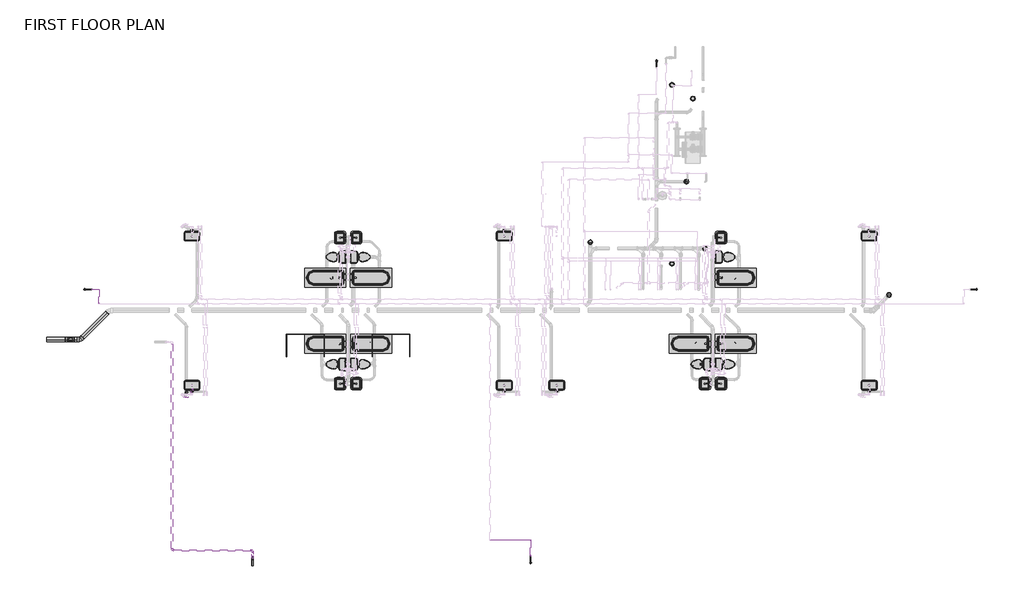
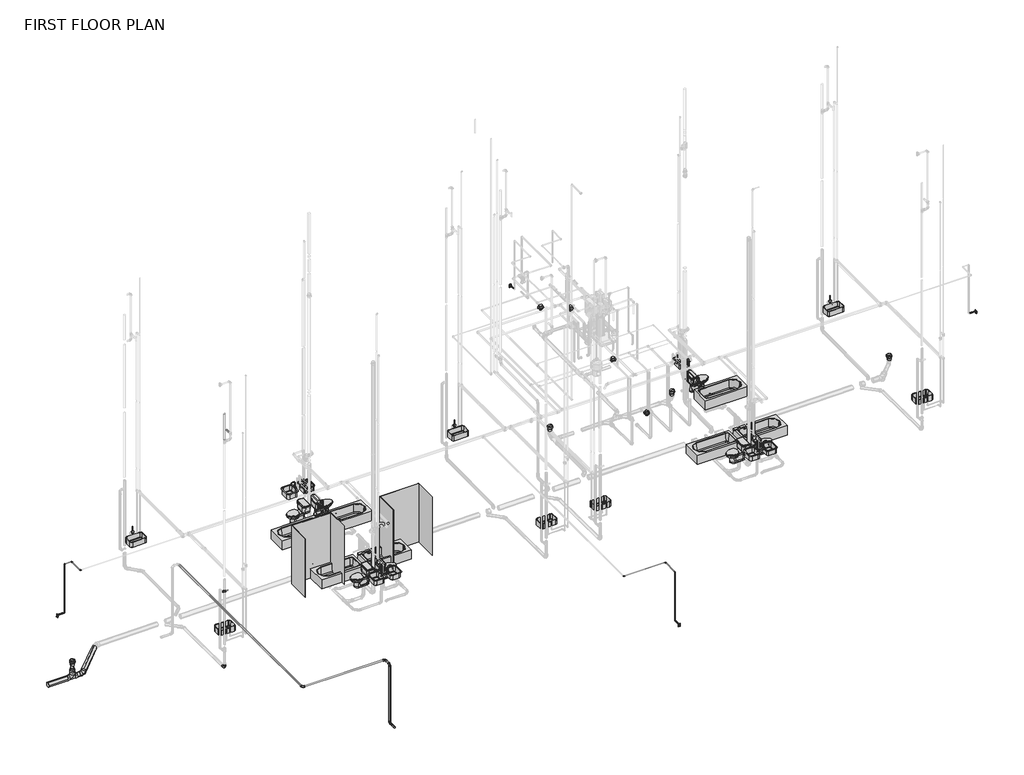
# One storey, part 1 of 29: 43 flow terminals, 20 pipe segments, 17 pipe fittings.
"""IFC4 building model written with IfcOpenShell, lengths in millimetres."""

from ifc_helpers import new_model, si_unit, point, frame, frame_2d, origin, place, context, project, spatial, circle_curve, trimmed, segment, composite_curve, outline, extrude, transform, mapped, element, save
from components import flow_terminal_9ac9a333, floor_cleanout_zurn_zn1400_ic_d83c3ab9, flow_terminal_99821c54, lsy_sink_1a_065a4558, lsy_sink_1a_83b20bf5, flow_terminal_62a433f7, flow_terminal_4d0de4d3, toilet_domestic_3d_toilet_domestic_3d_f7549cf7, toilet_domestic_3d_toilet_domestic_3d_183bbd19, toilet_domestic_3d_toilet_domestic_3d_a08e12bc, toilet_domestic_3d_toilet_domestic_3d_5530cc89, tub_rectangular_3d_tub_rectangular_3d_d1c8eb0f, tub_rectangular_3d_tub_rectangular_3d_b9fe3472, ada_transfer_shower_f_36x60_f5ea6e93, ada_transfer_shower_f_36x60_ab0e04bc, bend_pvc_sch_40_dwv_standard_ddf7f1b2, bend_pvc_sch_40_dwv_standard_9a61ab34, bend_pvc_sch_40_dwv_standard_1eaeee76, bend_pvc_sch_40_dwv_standard_ce2fe309, pipe_elbow_copper_k_feaaf02c, reducer_pvc_sch_40_dwv_standard_1f0c87c7, tee_sanitary_pvc_sch_40_dwv_standard_83125549

model = new_model("IFC4")

# Units and contexts
model_context = context("Model", 3, world=origin())
ifc_project = project(units=[si_unit("LENGTHUNIT", "METRE", prefix="MILLI")], contexts=[model_context])

# Site, building, storey
site = spatial("IfcSite", under=ifc_project)
building = spatial("IfcBuilding", under=site)
storey = spatial("IfcBuildingStorey", under=building, Name="FIRST FLOOR PLAN", Elevation=0.0)

# Flow terminals
placement = place(None, origin())
flow_terminal_shape = flow_terminal_9ac9a333(model_context)
element("IfcFlowTerminal", 1, ObjectType="Floor Drain - Round : 5\" Strainer - 3\" Drain", at=placement, inside=storey, context=model_context, shape_type="MappedRepresentation", body=[
    mapped(flow_terminal_shape, transform((15278.1760116, 7411.2276973, 0.0), x_axis=(1.0, 0.0, 0.0), y_axis=(0.0, 1.0, 0.0), z_axis=(0.0, 0.0, 1.0))),
])
element("IfcFlowTerminal", 2, ObjectType="Floor Drain - Round : 5\" Strainer - 3\" Drain", at=placement, inside=storey, context=model_context, shape_type="MappedRepresentation", body=[
    mapped(flow_terminal_shape, transform((15278.5254982, 14675.2781784, 0.0), x_axis=(1.0, 0.0, 0.0), y_axis=(0.0, 1.0, 0.0), z_axis=(0.0, 0.0, 1.0))),
])
element("IfcFlowTerminal", 3, ObjectType="Floor Drain - Round : 5\" Strainer - 3\" Drain", at=placement, inside=storey, context=model_context, shape_type="MappedRepresentation", body=[
    mapped(flow_terminal_shape, transform((16130.2759733, 14121.8256973, 0.0), x_axis=(1.0, 0.0, 0.0), y_axis=(0.0, 1.0, 0.0), z_axis=(0.0, 0.0, 1.0))),
])
element("IfcFlowTerminal", 4, ObjectType="Floor Drain - Round : 5\" Strainer - 3\" Drain", at=placement, inside=storey, context=model_context, shape_type="MappedRepresentation", body=[
    mapped(flow_terminal_shape, transform((15863.1377601, 10743.5981228, 0.0), x_axis=(1.0, 0.0, 0.0), y_axis=(0.0, 1.0, 0.0), z_axis=(0.0, 0.0, 1.0))),
])
floor_cleanout_zurn_zn1400_ic_shape = floor_cleanout_zurn_zn1400_ic_d83c3ab9(model_context)
element("IfcFlowTerminal", 5, ObjectType="Floor_Cleanout-Zurn-ZN1400-IC : 7-1/4\" x 9-1/8\" x D4\"", at=placement, inside=storey, context=model_context, shape_type="MappedRepresentation", body=[
    mapped(floor_cleanout_zurn_zn1400_ic_shape, transform((24102.5133659, 6142.3914719, -3.4395833), x_axis=(1.0, 0.0, 0.0), y_axis=(0.0, 1.0, 0.0), z_axis=(0.0, 0.0, 1.0))),
])
element("IfcFlowTerminal", 6, ObjectType="Floor_Cleanout-Zurn-ZN1400-IC : 7-1/4\" x 9-1/8\" x D4\"", at=placement, inside=storey, context=model_context, shape_type="MappedRepresentation", body=[
    mapped(floor_cleanout_zurn_zn1400_ic_shape, transform((16620.4563796, 8027.5860232, -3.4395833), x_axis=(1.0, 0.0, 0.0), y_axis=(0.0, 1.0, 0.0), z_axis=(0.0, 0.0, 1.0))),
])
element("IfcFlowTerminal", 7, ObjectType="Floor_Cleanout-Zurn-ZN1400-IC : 7-1/4\" x 9-1/8\" x D4\"", at=placement, inside=storey, context=model_context, shape_type="MappedRepresentation", body=[
    mapped(floor_cleanout_zurn_zn1400_ic_shape, transform((11956.8124374, 8283.2137605, -3.4395833), x_axis=(1.0, 0.0, 0.0), y_axis=(0.0, 1.0, 0.0), z_axis=(0.0, 0.0, 1.0))),
])
element("IfcFlowTerminal", 8, ObjectType="Floor_Cleanout-Zurn-ZN1400-IC : 7-1/4\" x 9-1/8\" x D4\"", at=placement, inside=storey, context=model_context, shape_type="MappedRepresentation", body=[
    mapped(floor_cleanout_zurn_zn1400_ic_shape, transform((-9172.9834122, 4328.6435599, -3.4395833), x_axis=(1.0, 0.0, 0.0), y_axis=(0.0, 1.0, 0.0), z_axis=(0.0, 0.0, 1.0))),
])
flow_terminal_2_shape = flow_terminal_99821c54(model_context)
element("IfcFlowTerminal", 9, ObjectType="GES WALL HYDRANT : 6\" Wall Thickness", at=placement, inside=storey, context=model_context, shape_type="MappedRepresentation", body=[
    mapped(flow_terminal_2_shape, transform((27658.0237309, 6363.4137881, 438.0), x_axis=(0.0, 1.0, 0.0), y_axis=(0.0, 0.0, 1.0), z_axis=(1.0, 0.0, 0.0))),
])
element("IfcFlowTerminal", 10, ObjectType="GES WALL HYDRANT : 6\" Wall Thickness", at=placement, inside=storey, context=model_context, shape_type="MappedRepresentation", body=[
    mapped(flow_terminal_2_shape, transform((14653.1084875, 15654.2137881, 438.0), x_axis=(-1.0, 0.0, 0.0), y_axis=(0.0, 0.0, 1.0), z_axis=(0.0, 1.0, 0.0))),
])
element("IfcFlowTerminal", 11, ObjectType="GES WALL HYDRANT : 6\" Wall Thickness", at=placement, inside=storey, context=model_context, shape_type="MappedRepresentation", body=[
    mapped(flow_terminal_2_shape, transform((9530.5084875, -4751.5862119, 438.0), x_axis=(1.0, 0.0, 0.0), y_axis=(0.0, 0.0, 1.0), z_axis=(0.0, -1.0, 0.0))),
])
element("IfcFlowTerminal", 12, ObjectType="GES WALL HYDRANT : 6\" Wall Thickness", at=placement, inside=storey, context=model_context, shape_type="MappedRepresentation", body=[
    mapped(flow_terminal_2_shape, transform((-8587.806756, 6363.4137881, 438.0), x_axis=(0.0, -1.0, 0.0), y_axis=(0.0, 0.0, 1.0), z_axis=(-1.0, 0.0, 0.0))),
])
lsy_sink_1a_shape = lsy_sink_1a_065a4558(model_context)
element("IfcFlowTerminal", 13, ObjectType="LSY_Sink_1A : 25\"W x 15\"D", at=placement, inside=storey, context=model_context, shape_type="MappedRepresentation", body=[
    mapped(lsy_sink_1a_shape, transform((-4245.7932531, 8626.5933869, -38.1), x_axis=(1.0, 0.0, 0.0), y_axis=(0.0, 1.0, 0.0), z_axis=(0.0, 0.0, 1.0))),
])
element("IfcFlowTerminal", 14, ObjectType="LSY_Sink_1A : 25\"W x 15\"D", at=placement, inside=storey, context=model_context, shape_type="MappedRepresentation", body=[
    mapped(lsy_sink_1a_shape, transform((8482.410228, 2373.0341892, -38.1), x_axis=(-1.0, 0.0, 0.0), y_axis=(0.0, -1.0, 0.0), z_axis=(0.0, 0.0, 1.0))),
])
element("IfcFlowTerminal", 15, ObjectType="LSY_Sink_1A : 25\"W x 15\"D", at=placement, inside=storey, context=model_context, shape_type="MappedRepresentation", body=[
    mapped(lsy_sink_1a_shape, transform((23306.010228, 2373.0341892, -38.1), x_axis=(-1.0, 0.0, 0.0), y_axis=(0.0, -1.0, 0.0), z_axis=(0.0, 0.0, 1.0))),
])
lsy_sink_1a_2_shape = lsy_sink_1a_83b20bf5(model_context)
element("IfcFlowTerminal", 16, ObjectType="LSY_Sink_1A : 25\"W x 15\"D", at=placement, inside=storey, context=model_context, shape_type="MappedRepresentation", body=[
    mapped(lsy_sink_1a_2_shape, transform((8482.410228, 8626.5933869, -38.1), x_axis=(-1.0, 0.0, 0.0), y_axis=(0.0, -1.0, 0.0), z_axis=(0.0, 0.0, 1.0))),
])
element("IfcFlowTerminal", 17, ObjectType="LSY_Sink_1A : 25\"W x 15\"D", at=placement, inside=storey, context=model_context, shape_type="MappedRepresentation", body=[
    mapped(lsy_sink_1a_2_shape, transform((23306.010228, 8626.5933869, -38.1), x_axis=(-1.0, 0.0, 0.0), y_axis=(0.0, -1.0, 0.0), z_axis=(0.0, 0.0, 1.0))),
])
element("IfcFlowTerminal", 18, ObjectType="LSY_Sink_1A : 25\"W x 15\"D", at=placement, inside=storey, context=model_context, shape_type="MappedRepresentation", body=[
    mapped(lsy_sink_1a_2_shape, transform((-4245.7932531, 2373.0341892, -38.1), x_axis=(1.0, 0.0, 0.0), y_axis=(0.0, 1.0, 0.0), z_axis=(0.0, 0.0, 1.0))),
])
element("IfcFlowTerminal", 19, ObjectType="LSY_Sink_1A : 25\"W x 15\"D", at=placement, inside=storey, context=model_context, shape_type="MappedRepresentation", body=[
    mapped(lsy_sink_1a_2_shape, transform((10579.4067469, 2373.0341892, -38.1), x_axis=(1.0, 0.0, 0.0), y_axis=(0.0, 1.0, 0.0), z_axis=(0.0, 0.0, 1.0))),
])
element("IfcFlowTerminal", 20, ObjectType="LSY_Sink_1A : 25\"W x 15\"D", at=placement, inside=storey, context=model_context, shape_type="MappedRepresentation", body=[
    mapped(lsy_sink_1a_2_shape, transform((-4245.7932531, 2373.0341892, -38.1), x_axis=(1.0, 0.0, 0.0), y_axis=(0.0, 1.0, 0.0), z_axis=(0.0, 0.0, 1.0))),
])
flow_terminal_3_shape = flow_terminal_62a433f7(model_context)
element("IfcFlowTerminal", 21, ObjectType="Sink Vanity-Square : 20\" x 18\"", at=placement, inside=storey, context=model_context, shape_type="MappedRepresentation", body=[
    mapped(flow_terminal_3_shape, transform((1841.1630863, 8482.7030286, 0.0), x_axis=(0.0, -1.0, 0.0), y_axis=(1.0, 0.0, 0.0), z_axis=(0.0, 0.0, 1.0))),
])
element("IfcFlowTerminal", 22, ObjectType="Sink Vanity-Square : 20\" x 18\"", at=placement, inside=storey, context=model_context, shape_type="MappedRepresentation", body=[
    mapped(flow_terminal_3_shape, transform((2395.4538886, 2516.9245475, 0.0), x_axis=(0.0, 1.0, 0.0), y_axis=(-1.0, 0.0, 0.0), z_axis=(0.0, 0.0, 1.0))),
])
element("IfcFlowTerminal", 23, ObjectType="Sink Vanity-Square : 20\" x 18\"", at=placement, inside=storey, context=model_context, shape_type="MappedRepresentation", body=[
    mapped(flow_terminal_3_shape, transform((17219.0538886, 2516.9245475, 0.0), x_axis=(0.0, 1.0, 0.0), y_axis=(-1.0, 0.0, 0.0), z_axis=(0.0, 0.0, 1.0))),
])
flow_terminal_4_shape = flow_terminal_4d0de4d3(model_context)
element("IfcFlowTerminal", 24, ObjectType="Sink Vanity-Square : 20\" x 18\"", at=placement, inside=storey, context=model_context, shape_type="MappedRepresentation", body=[
    mapped(flow_terminal_4_shape, transform((2395.4538886, 8482.7030286, 0.0), x_axis=(0.0, -1.0, 0.0), y_axis=(1.0, 0.0, 0.0), z_axis=(0.0, 0.0, 1.0))),
])
element("IfcFlowTerminal", 25, ObjectType="Sink Vanity-Square : 20\" x 18\"", at=placement, inside=storey, context=model_context, shape_type="MappedRepresentation", body=[
    mapped(flow_terminal_4_shape, transform((17219.0538886, 8482.7030286, 0.0), x_axis=(0.0, -1.0, 0.0), y_axis=(1.0, 0.0, 0.0), z_axis=(0.0, 0.0, 1.0))),
])
element("IfcFlowTerminal", 26, ObjectType="Sink Vanity-Square : 20\" x 18\"", at=placement, inside=storey, context=model_context, shape_type="MappedRepresentation", body=[
    mapped(flow_terminal_4_shape, transform((1841.1630863, 2516.9245475, 0.0), x_axis=(0.0, 1.0, 0.0), y_axis=(-1.0, 0.0, 0.0), z_axis=(0.0, 0.0, 1.0))),
])
element("IfcFlowTerminal", 27, ObjectType="Sink Vanity-Square : 20\" x 18\"", at=placement, inside=storey, context=model_context, shape_type="MappedRepresentation", body=[
    mapped(flow_terminal_4_shape, transform((16666.3630863, 2516.9245475, 0.0), x_axis=(0.0, 1.0, 0.0), y_axis=(-1.0, 0.0, 0.0), z_axis=(0.0, 0.0, 1.0))),
])
toilet_domestic_3d_toilet_domestic_3d_shape = toilet_domestic_3d_toilet_domestic_3d_f7549cf7(model_context)
toilet_domestic_3d_toilet_domestic_3d_2_shape = toilet_domestic_3d_toilet_domestic_3d_183bbd19(model_context)
element("IfcFlowTerminal", 28, ObjectType="Toilet-Domestic-3D : Toilet-Domestic-3D", at=placement, inside=storey, context=model_context, shape_type="MappedRepresentation", body=[
    mapped(toilet_domestic_3d_toilet_domestic_3d_shape, transform((1526.6124601, 7679.6137881, 0.0), x_axis=(0.0, -1.0, 0.0), y_axis=(1.0, 0.0, 0.0), z_axis=(0.0, 0.0, 1.0))),
    mapped(toilet_domestic_3d_toilet_domestic_3d_2_shape, transform((1526.6124601, 7679.6137881, 0.0), x_axis=(0.0, -1.0, 0.0), y_axis=(1.0, 0.0, 0.0), z_axis=(0.0, 0.0, 1.0))),
])
element("IfcFlowTerminal", 29, ObjectType="Toilet-Domestic-3D : Toilet-Domestic-3D", at=placement, inside=storey, context=model_context, shape_type="MappedRepresentation", body=[
    mapped(toilet_domestic_3d_toilet_domestic_3d_shape, transform((2710.0045148, 3320.0137881, 0.0), x_axis=(0.0, 1.0, 0.0), y_axis=(-1.0, 0.0, 0.0), z_axis=(0.0, 0.0, 1.0))),
    mapped(toilet_domestic_3d_toilet_domestic_3d_2_shape, transform((2710.0045148, 3320.0137881, 0.0), x_axis=(0.0, 1.0, 0.0), y_axis=(-1.0, 0.0, 0.0), z_axis=(0.0, 0.0, 1.0))),
])
element("IfcFlowTerminal", 30, ObjectType="Toilet-Domestic-3D : Toilet-Domestic-3D", at=placement, inside=storey, context=model_context, shape_type="MappedRepresentation", body=[
    mapped(toilet_domestic_3d_toilet_domestic_3d_shape, transform((17533.6045148, 3320.0137881, 0.0), x_axis=(0.0, 1.0, 0.0), y_axis=(-1.0, 0.0, 0.0), z_axis=(0.0, 0.0, 1.0))),
    mapped(toilet_domestic_3d_toilet_domestic_3d_2_shape, transform((17533.6045148, 3320.0137881, 0.0), x_axis=(0.0, 1.0, 0.0), y_axis=(-1.0, 0.0, 0.0), z_axis=(0.0, 0.0, 1.0))),
])
toilet_domestic_3d_toilet_domestic_3d_3_shape = toilet_domestic_3d_toilet_domestic_3d_a08e12bc(model_context)
toilet_domestic_3d_toilet_domestic_3d_4_shape = toilet_domestic_3d_toilet_domestic_3d_5530cc89(model_context)
element("IfcFlowTerminal", 31, ObjectType="Toilet-Domestic-3D : Toilet-Domestic-3D", at=placement, inside=storey, context=model_context, shape_type="MappedRepresentation", body=[
    mapped(toilet_domestic_3d_toilet_domestic_3d_3_shape, transform((2710.0045148, 7679.6137881, 0.0), x_axis=(0.0, -1.0, 0.0), y_axis=(1.0, 0.0, 0.0), z_axis=(0.0, 0.0, 1.0))),
    mapped(toilet_domestic_3d_toilet_domestic_3d_4_shape, transform((2710.0045148, 7679.6137881, 0.0), x_axis=(0.0, -1.0, 0.0), y_axis=(1.0, 0.0, 0.0), z_axis=(0.0, 0.0, 1.0))),
])
element("IfcFlowTerminal", 32, ObjectType="Toilet-Domestic-3D : Toilet-Domestic-3D", at=placement, inside=storey, context=model_context, shape_type="MappedRepresentation", body=[
    mapped(toilet_domestic_3d_toilet_domestic_3d_3_shape, transform((17533.6045148, 7679.6137881, 0.0), x_axis=(0.0, -1.0, 0.0), y_axis=(1.0, 0.0, 0.0), z_axis=(0.0, 0.0, 1.0))),
    mapped(toilet_domestic_3d_toilet_domestic_3d_4_shape, transform((17533.6045148, 7679.6137881, 0.0), x_axis=(0.0, -1.0, 0.0), y_axis=(1.0, 0.0, 0.0), z_axis=(0.0, 0.0, 1.0))),
])
element("IfcFlowTerminal", 33, ObjectType="Toilet-Domestic-3D : Toilet-Domestic-3D", at=placement, inside=storey, context=model_context, shape_type="MappedRepresentation", body=[
    mapped(toilet_domestic_3d_toilet_domestic_3d_3_shape, transform((1526.6124601, 3320.0137881, 0.0), x_axis=(0.0, 1.0, 0.0), y_axis=(-1.0, 0.0, 0.0), z_axis=(0.0, 0.0, 1.0))),
    mapped(toilet_domestic_3d_toilet_domestic_3d_4_shape, transform((1526.6124601, 3320.0137881, 0.0), x_axis=(0.0, 1.0, 0.0), y_axis=(-1.0, 0.0, 0.0), z_axis=(0.0, 0.0, 1.0))),
])
element("IfcFlowTerminal", 34, ObjectType="Toilet-Domestic-3D : Toilet-Domestic-3D", at=placement, inside=storey, context=model_context, shape_type="MappedRepresentation", body=[
    mapped(toilet_domestic_3d_toilet_domestic_3d_3_shape, transform((16351.8124601, 3320.0137881, 0.0), x_axis=(0.0, 1.0, 0.0), y_axis=(-1.0, 0.0, 0.0), z_axis=(0.0, 0.0, 1.0))),
    mapped(toilet_domestic_3d_toilet_domestic_3d_4_shape, transform((16351.8124601, 3320.0137881, 0.0), x_axis=(0.0, 1.0, 0.0), y_axis=(-1.0, 0.0, 0.0), z_axis=(0.0, 0.0, 1.0))),
])
tub_rectangular_3d_tub_rectangular_3d_shape = tub_rectangular_3d_tub_rectangular_3d_d1c8eb0f(model_context)
element("IfcFlowTerminal", 35, ObjectType="Tub-Rectangular-3D : Tub-Rectangular-3D", at=placement, inside=storey, context=model_context, shape_type="MappedRepresentation", body=[
    mapped(tub_rectangular_3d_tub_rectangular_3d_shape, transform((3475.1364562, 6460.4137881, 0.0), x_axis=(1.0, 0.0, 0.0), y_axis=(0.0, 1.0, 0.0), z_axis=(0.0, 0.0, 1.0))),
])
element("IfcFlowTerminal", 36, ObjectType="Tub-Rectangular-3D : Tub-Rectangular-3D", at=placement, inside=storey, context=model_context, shape_type="MappedRepresentation", body=[
    mapped(tub_rectangular_3d_tub_rectangular_3d_shape, transform((18298.7364562, 6460.4137881, 0.0), x_axis=(1.0, 0.0, 0.0), y_axis=(0.0, 1.0, 0.0), z_axis=(0.0, 0.0, 1.0))),
])
element("IfcFlowTerminal", 37, ObjectType="Tub-Rectangular-3D : Tub-Rectangular-3D", at=placement, inside=storey, context=model_context, shape_type="MappedRepresentation", body=[
    mapped(tub_rectangular_3d_tub_rectangular_3d_shape, transform((758.3055188, 4539.2137881, 0.0), x_axis=(-1.0, 0.0, 0.0), y_axis=(0.0, -1.0, 0.0), z_axis=(0.0, 0.0, 1.0))),
])
element("IfcFlowTerminal", 38, ObjectType="Tub-Rectangular-3D : Tub-Rectangular-3D", at=placement, inside=storey, context=model_context, shape_type="MappedRepresentation", body=[
    mapped(tub_rectangular_3d_tub_rectangular_3d_shape, transform((15586.6805188, 4539.2137881, 0.0), x_axis=(-1.0, 0.0, 0.0), y_axis=(0.0, -1.0, 0.0), z_axis=(0.0, 0.0, 1.0))),
])
tub_rectangular_3d_tub_rectangular_3d_2_shape = tub_rectangular_3d_tub_rectangular_3d_b9fe3472(model_context)
element("IfcFlowTerminal", 39, ObjectType="Tub-Rectangular-3D : Tub-Rectangular-3D", at=placement, inside=storey, context=model_context, shape_type="MappedRepresentation", body=[
    mapped(tub_rectangular_3d_tub_rectangular_3d_2_shape, transform((761.4805188, 6460.4137881, 0.0), x_axis=(-1.0, 0.0, 0.0), y_axis=(0.0, -1.0, 0.0), z_axis=(0.0, 0.0, 1.0))),
])
element("IfcFlowTerminal", 40, ObjectType="Tub-Rectangular-3D : Tub-Rectangular-3D", at=placement, inside=storey, context=model_context, shape_type="MappedRepresentation", body=[
    mapped(tub_rectangular_3d_tub_rectangular_3d_2_shape, transform((3478.3114562, 4539.2137881, 0.0), x_axis=(1.0, 0.0, 0.0), y_axis=(0.0, 1.0, 0.0), z_axis=(0.0, 0.0, 1.0))),
])
element("IfcFlowTerminal", 41, ObjectType="Tub-Rectangular-3D : Tub-Rectangular-3D", at=placement, inside=storey, context=model_context, shape_type="MappedRepresentation", body=[
    mapped(tub_rectangular_3d_tub_rectangular_3d_2_shape, transform((18298.7364562, 4539.2137881, 0.0), x_axis=(1.0, 0.0, 0.0), y_axis=(0.0, 1.0, 0.0), z_axis=(0.0, 0.0, 1.0))),
])
ada_transfer_shower_f_36x60_shape = ada_transfer_shower_f_36x60_f5ea6e93(model_context)
element("IfcFlowTerminal", 42, ObjectType="ada-transfer shower- f : 36x60", at=placement, inside=storey, context=model_context, shape_type="MappedRepresentation", body=[
    mapped(ada_transfer_shower_f_36x60_shape, transform((-388.5165125, 4539.2137881, 0.0), x_axis=(1.0, 0.0, 0.0), y_axis=(0.0, 1.0, 0.0), z_axis=(0.0, 0.0, 1.0))),
])
ada_transfer_shower_f_36x60_2_shape = ada_transfer_shower_f_36x60_ab0e04bc(model_context)
element("IfcFlowTerminal", 43, ObjectType="ada-transfer shower- f : 36x60", at=placement, inside=storey, context=model_context, shape_type="MappedRepresentation", body=[
    mapped(ada_transfer_shower_f_36x60_2_shape, transform((4625.1334875, 4539.2137881, 0.0), x_axis=(-1.0, 0.0, 0.0), y_axis=(0.0, -1.0, 0.0), z_axis=(0.0, 0.0, 1.0))),
])

# Pipe fittings
bend_pvc_sch_40_dwv_standard_shape = bend_pvc_sch_40_dwv_standard_ddf7f1b2(model_context)
element("IfcPipeFitting", 44, ObjectType="Bend - PVC - Sch 40 - DWV : Standard", at=placement, inside=storey, context=model_context, shape_type="MappedRepresentation", body=[
    mapped(bend_pvc_sch_40_dwv_standard_shape, transform((-4457.3750986, 2089.9260742, -577.4375), x_axis=(0.0, 0.0, -1.0), y_axis=(0.0, -1.0, 0.0), z_axis=(-1.0, 0.0, 0.0))),
])
bend_pvc_sch_40_dwv_standard_2_shape = bend_pvc_sch_40_dwv_standard_9a61ab34(model_context)
element("IfcPipeFitting", 45, ObjectType="Bend - PVC - Sch 40 - DWV : Standard", at=placement, inside=storey, context=model_context, shape_type="MappedRepresentation", body=[
    mapped(bend_pvc_sch_40_dwv_standard_2_shape, transform((-4534.9964182, 1981.9339371, 2685.810937), x_axis=(-0.9999457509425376, 0.0, 0.010416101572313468), y_axis=(-4.542044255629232e-05, -0.9999904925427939, -0.004360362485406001), z_axis=(0.010416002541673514, -0.004360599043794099, 0.9999362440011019))),
])
bend_pvc_sch_40_dwv_standard_3_shape = bend_pvc_sch_40_dwv_standard_1eaeee76(model_context)
element("IfcPipeFitting", 46, ObjectType="Bend - PVC - Sch 40 - DWV : Standard", at=placement, inside=storey, context=model_context, shape_type="MappedRepresentation", body=[
    mapped(bend_pvc_sch_40_dwv_standard_3_shape, transform((-5038.8915125, -4240.78167, 2647.6523438), x_axis=(0.0, -0.9999999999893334, 4.618791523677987e-06), y_axis=(1.0, 0.0, 0.0), z_axis=(0.0, 4.618791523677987e-06, 0.9999999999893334))),
])
element("IfcPipeFitting", 47, ObjectType="Bend - PVC - Sch 40 - DWV : Standard", at=placement, inside=storey, context=model_context, shape_type="MappedRepresentation", body=[
    mapped(bend_pvc_sch_40_dwv_standard_3_shape, transform((-1773.4085819, -4240.78167, 2647.6523438), x_axis=(0.0, 1.0, 0.0), y_axis=(-1.0, 0.0, 0.0), z_axis=(0.0, 0.0, 1.0))),
])
element("IfcPipeFitting", 48, ObjectType="Bend - PVC - Sch 40 - DWV : Standard", at=placement, inside=storey, context=model_context, shape_type="MappedRepresentation", body=[
    mapped(bend_pvc_sch_40_dwv_standard_3_shape, transform((-1773.4085819, -4545.58167, 2647.6523437), x_axis=(0.0, -1.0, 0.0), y_axis=(0.0, 0.0, -1.0), z_axis=(1.0, 0.0, 0.0))),
])
element("IfcPipeFitting", 49, ObjectType="Bend - PVC - Sch 40 - DWV : Standard", at=placement, inside=storey, context=model_context, shape_type="MappedRepresentation", body=[
    mapped(bend_pvc_sch_40_dwv_standard_3_shape, transform((-1773.4085819, -4545.58167, 209.2523437), x_axis=(0.0, 0.0, -1.0), y_axis=(0.0, -1.0, 0.0), z_axis=(-1.0, 0.0, 0.0))),
])
bend_pvc_sch_40_dwv_standard_4_shape = bend_pvc_sch_40_dwv_standard_ce2fe309(model_context)
element("IfcPipeFitting", 50, ObjectType="Bend - PVC - Sch 40 - DWV : Standard", at=placement, inside=storey, context=model_context, shape_type="MappedRepresentation", body=[
    mapped(bend_pvc_sch_40_dwv_standard_4_shape, transform((-8768.4172, 4328.6410912, -653.4809803), x_axis=(0.9999457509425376, 0.0, 0.010416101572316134), y_axis=(-4.47924763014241e-05, 0.9999907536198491, 0.004300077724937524), z_axis=(-0.010416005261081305, -0.004300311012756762, 0.9999365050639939))),
])
pipe_elbow_copper_k_shape = pipe_elbow_copper_k_feaaf02c(model_context)
element("IfcPipeFitting", 51, ObjectType="Pipe Elbow : Copper- K", at=placement, inside=storey, context=model_context, shape_type="MappedRepresentation", body=[
    mapped(pipe_elbow_copper_k_shape, transform((7886.7826705, -3822.9824619, 2490.6882813), x_axis=(0.0, -1.0, 0.0), y_axis=(1.0, 0.0, 0.0), z_axis=(0.0, 0.0, 1.0))),
])
element("IfcPipeFitting", 52, ObjectType="Pipe Elbow : Copper- K", at=placement, inside=storey, context=model_context, shape_type="MappedRepresentation", body=[
    mapped(pipe_elbow_copper_k_shape, transform((9530.5084875, -4467.4238237, 467.36875), x_axis=(0.0, 1.0, 0.0), y_axis=(0.0, 0.0, 1.0), z_axis=(1.0, 0.0, 0.0))),
])
element("IfcPipeFitting", 53, ObjectType="Pipe Elbow : Copper- K", at=placement, inside=storey, context=model_context, shape_type="MappedRepresentation", body=[
    mapped(pipe_elbow_copper_k_shape, transform((9530.5084875, -4467.4238237, 2490.6882812), x_axis=(0.0, 0.0, 1.0), y_axis=(0.0, 1.0, 0.0), z_axis=(-1.0, 0.0, 0.0))),
])
element("IfcPipeFitting", 54, ObjectType="Pipe Elbow : Copper- K", at=placement, inside=storey, context=model_context, shape_type="MappedRepresentation", body=[
    mapped(pipe_elbow_copper_k_shape, transform((9530.5084875, -3822.9824619, 2490.6882812), x_axis=(0.0, 1.0, 0.0), y_axis=(-1.0, 0.0, 0.0), z_axis=(0.0, 0.0, 1.0))),
])
element("IfcPipeFitting", 55, ObjectType="Pipe Elbow : Copper- K", at=placement, inside=storey, context=model_context, shape_type="MappedRepresentation", body=[
    mapped(pipe_elbow_copper_k_shape, transform((-8015.9727625, 5778.2175381, 2490.6882813), x_axis=(0.0, -1.0, 0.0), y_axis=(1.0, 0.0, 0.0), z_axis=(0.0, 0.0, 1.0))),
])
element("IfcPipeFitting", 56, ObjectType="Pipe Elbow : Copper- K", at=placement, inside=storey, context=model_context, shape_type="MappedRepresentation", body=[
    mapped(pipe_elbow_copper_k_shape, transform((-8303.6443677, 6363.4137881, 467.36875), x_axis=(1.0, 0.0, 0.0), y_axis=(0.0, 0.0, 1.0), z_axis=(0.0, -1.0, 0.0))),
])
element("IfcPipeFitting", 57, ObjectType="Pipe Elbow : Copper- K", at=placement, inside=storey, context=model_context, shape_type="MappedRepresentation", body=[
    mapped(pipe_elbow_copper_k_shape, transform((-8303.6443677, 6363.4137881, 2490.6882812), x_axis=(0.0, 0.0, 1.0), y_axis=(1.0, 0.0, 0.0), z_axis=(0.0, 1.0, 0.0))),
])
element("IfcPipeFitting", 58, ObjectType="Pipe Elbow : Copper- K", at=placement, inside=storey, context=model_context, shape_type="MappedRepresentation", body=[
    mapped(pipe_elbow_copper_k_shape, transform((-8015.9727625, 6363.4137881, 2490.6882812), x_axis=(0.0, 1.0, 0.0), y_axis=(-1.0, 0.0, 0.0), z_axis=(0.0, 0.0, 1.0))),
])
reducer_pvc_sch_40_dwv_standard_shape = reducer_pvc_sch_40_dwv_standard_1f0c87c7(model_context)
element("IfcPipeFitting", 59, ObjectType="Reducer - PVC - Sch 40 - DWV : Standard", at=placement, inside=storey, context=model_context, shape_type="MappedRepresentation", body=[
    mapped(reducer_pvc_sch_40_dwv_standard_shape, transform((-9174.2332631, 4328.639653, -454.5296578), x_axis=(0.007455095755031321, -7.077833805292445e-06, 0.999972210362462), y_axis=(-0.9999722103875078, -1.265046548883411e-07, 0.007455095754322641), z_axis=(7.373521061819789e-08, -0.9999999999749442, -7.078580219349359e-06))),
])
tee_sanitary_pvc_sch_40_dwv_standard_shape = tee_sanitary_pvc_sch_40_dwv_standard_83125549(model_context)
element("IfcPipeFitting", 60, ObjectType="Tee Sanitary - PVC - Sch 40 - DWV : Standard", at=placement, inside=storey, context=model_context, shape_type="MappedRepresentation", body=[
    mapped(tee_sanitary_pvc_sch_40_dwv_standard_shape, transform((-9175.7481386, 4328.6410912, -657.7240109), x_axis=(0.9999457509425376, 0.0, 0.010416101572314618), y_axis=(0.010416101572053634, 7.078964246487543e-06, -0.9999457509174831), z_axis=(-7.373521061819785e-08, 0.9999999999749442, 7.07858021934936e-06))),
])

# Pipe segments
element("IfcPipeSegment", 61, ObjectType="Copper", at=placement, inside=storey, context=model_context, shape_type="SweptSolid", body=[
    extrude(outline(composite_curve([segment(trimmed(circle_curve(frame_2d((-3822.9824619, 2490.6882813)), 11.1125), [point((-3834.0949619, 2490.6882813))], [point((-3822.9824619, 2501.8007813))], False, "CARTESIAN"), True, "CONTINUOUS"), segment(trimmed(circle_curve(frame_2d((-3822.9824619, 2490.6882813)), 11.1125), [point((-3822.9824619, 2501.8007813))], [point((-3811.8699619, 2490.6882813))], False, "CARTESIAN"), True, "CONTINUOUS"), segment(trimmed(circle_curve(frame_2d((-3822.9824619, 2490.6882813)), 11.1125), [point((-3811.8699619, 2490.6882813))], [point((-3822.9824619, 2479.5757813))], False, "CARTESIAN"), True, "CONTINUOUS"), segment(trimmed(circle_curve(frame_2d((-3822.9824619, 2490.6882813)), 11.1125), [point((-3822.9824619, 2479.5757813))], [point((-3834.0949619, 2490.6882813))], False, "CARTESIAN"), True, "CONTINUOUS")], self_intersect=False)), frame((7907.4201705, 0.0, 0.0), z_axis=(1.0, 0.0, 0.0), x_axis=(0.0, 1.0, 0.0)), (0.0, 0.0, 1.0), 1602.450817),
])
element("IfcPipeSegment", 62, ObjectType="Copper", at=placement, inside=storey, context=model_context, shape_type="SweptSolid", body=[
    extrude(outline(composite_curve([segment(trimmed(circle_curve(frame_2d((2490.6882813, 9530.5084875)), 11.1125), [point((2490.6882813, 9541.6209875))], [point((2501.8007813, 9530.5084875))], False, "CARTESIAN"), True, "CONTINUOUS"), segment(trimmed(circle_curve(frame_2d((2490.6882813, 9530.5084875)), 11.1125), [point((2501.8007813, 9530.5084875))], [point((2490.6882813, 9519.3959875))], False, "CARTESIAN"), True, "CONTINUOUS"), segment(trimmed(circle_curve(frame_2d((2490.6882813, 9530.5084875)), 11.1125), [point((2490.6882813, 9519.3959875))], [point((2479.5757813, 9530.5084875))], False, "CARTESIAN"), True, "CONTINUOUS"), segment(trimmed(circle_curve(frame_2d((2490.6882813, 9530.5084875)), 11.1125), [point((2479.5757813, 9530.5084875))], [point((2490.6882813, 9541.6209875))], False, "CARTESIAN"), True, "CONTINUOUS")], self_intersect=False)), frame((0.0, -4446.7863237, 0.0), z_axis=(0.0, 1.0, 0.0), x_axis=(0.0, 0.0, 1.0)), (0.0, 0.0, 1.0), 603.1663618),
])
element("IfcPipeSegment", 63, ObjectType="Copper", at=placement, inside=storey, context=model_context, shape_type="SweptSolid", body=[
    extrude(outline(composite_curve([segment(trimmed(circle_curve(frame_2d((467.36875, 9530.5084875)), 11.1125), [point((467.36875, 9541.6209875))], [point((478.48125, 9530.5084875))], False, "CARTESIAN"), True, "CONTINUOUS"), segment(trimmed(circle_curve(frame_2d((467.36875, 9530.5084875)), 11.1125), [point((478.48125, 9530.5084875))], [point((467.36875, 9519.3959875))], False, "CARTESIAN"), True, "CONTINUOUS"), segment(trimmed(circle_curve(frame_2d((467.36875, 9530.5084875)), 11.1125), [point((467.36875, 9519.3959875))], [point((456.25625, 9530.5084875))], False, "CARTESIAN"), True, "CONTINUOUS"), segment(trimmed(circle_curve(frame_2d((467.36875, 9530.5084875)), 11.1125), [point((456.25625, 9530.5084875))], [point((467.36875, 9541.6209875))], False, "CARTESIAN"), True, "CONTINUOUS")], self_intersect=False)), frame((0.0, -4513.4612119, 0.0), z_axis=(0.0, 1.0, 0.0), x_axis=(0.0, 0.0, 1.0)), (0.0, 0.0, 1.0), 25.3998882),
])
element("IfcPipeSegment", 64, ObjectType="Copper", at=placement, inside=storey, context=model_context, shape_type="SweptSolid", body=[
    extrude(outline(composite_curve([segment(trimmed(circle_curve(frame_2d((9530.5084875, -4467.4238237)), 11.1125), [point((9519.3959875, -4467.4238237))], [point((9530.5084875, -4456.3113237))], False, "CARTESIAN"), True, "CONTINUOUS"), segment(trimmed(circle_curve(frame_2d((9530.5084875, -4467.4238237)), 11.1125), [point((9530.5084875, -4456.3113237))], [point((9541.6209875, -4467.4238237))], False, "CARTESIAN"), True, "CONTINUOUS"), segment(trimmed(circle_curve(frame_2d((9530.5084875, -4467.4238237)), 11.1125), [point((9541.6209875, -4467.4238237))], [point((9530.5084875, -4478.5363237))], False, "CARTESIAN"), True, "CONTINUOUS"), segment(trimmed(circle_curve(frame_2d((9530.5084875, -4467.4238237)), 11.1125), [point((9530.5084875, -4478.5363237))], [point((9519.3959875, -4467.4238237))], False, "CARTESIAN"), True, "CONTINUOUS")], self_intersect=False)), frame((0.0, 0.0, 488.00625), z_axis=(0.0, 0.0, 1.0), x_axis=(1.0, 0.0, 0.0)), (0.0, 0.0, 1.0), 1982.0445313),
])
element("IfcPipeSegment", 65, ObjectType="Copper", at=placement, inside=storey, context=model_context, shape_type="SweptSolid", body=[
    extrude(outline(composite_curve([segment(trimmed(circle_curve(frame_2d((2490.6882813, -8015.9727625)), 11.1125), [point((2490.6882813, -8004.8602625))], [point((2501.8007813, -8015.9727625))], False, "CARTESIAN"), True, "CONTINUOUS"), segment(trimmed(circle_curve(frame_2d((2490.6882813, -8015.9727625)), 11.1125), [point((2501.8007813, -8015.9727625))], [point((2490.6882813, -8027.0852625))], False, "CARTESIAN"), True, "CONTINUOUS"), segment(trimmed(circle_curve(frame_2d((2490.6882813, -8015.9727625)), 11.1125), [point((2490.6882813, -8027.0852625))], [point((2479.5757813, -8015.9727625))], False, "CARTESIAN"), True, "CONTINUOUS"), segment(trimmed(circle_curve(frame_2d((2490.6882813, -8015.9727625)), 11.1125), [point((2479.5757813, -8015.9727625))], [point((2490.6882813, -8004.8602625))], False, "CARTESIAN"), True, "CONTINUOUS")], self_intersect=False)), frame((0.0, 5798.8550381, 0.0), z_axis=(0.0, 1.0, 0.0), x_axis=(0.0, 0.0, 1.0)), (0.0, 0.0, 1.0), 543.92125),
])
element("IfcPipeSegment", 66, ObjectType="Copper", at=placement, inside=storey, context=model_context, shape_type="SweptSolid", body=[
    extrude(outline(composite_curve([segment(trimmed(circle_curve(frame_2d((6363.4137881, 2490.6882813)), 11.1125), [point((6352.3012881, 2490.6882813))], [point((6363.4137881, 2501.8007813))], False, "CARTESIAN"), True, "CONTINUOUS"), segment(trimmed(circle_curve(frame_2d((6363.4137881, 2490.6882813)), 11.1125), [point((6363.4137881, 2501.8007813))], [point((6374.5262881, 2490.6882813))], False, "CARTESIAN"), True, "CONTINUOUS"), segment(trimmed(circle_curve(frame_2d((6363.4137881, 2490.6882813)), 11.1125), [point((6374.5262881, 2490.6882813))], [point((6363.4137881, 2479.5757813))], False, "CARTESIAN"), True, "CONTINUOUS"), segment(trimmed(circle_curve(frame_2d((6363.4137881, 2490.6882813)), 11.1125), [point((6363.4137881, 2479.5757813))], [point((6352.3012881, 2490.6882813))], False, "CARTESIAN"), True, "CONTINUOUS")], self_intersect=False)), frame((-8283.0068677, 0.0, 0.0), z_axis=(1.0, 0.0, 0.0), x_axis=(0.0, 1.0, 0.0)), (0.0, 0.0, 1.0), 246.3966052),
])
element("IfcPipeSegment", 67, ObjectType="Copper", at=placement, inside=storey, context=model_context, shape_type="SweptSolid", body=[
    extrude(outline(composite_curve([segment(trimmed(circle_curve(frame_2d((6363.4137881, 467.36875)), 11.1125), [point((6352.3012881, 467.36875))], [point((6363.4137881, 478.48125))], False, "CARTESIAN"), True, "CONTINUOUS"), segment(trimmed(circle_curve(frame_2d((6363.4137881, 467.36875)), 11.1125), [point((6363.4137881, 478.48125))], [point((6374.5262881, 467.36875))], False, "CARTESIAN"), True, "CONTINUOUS"), segment(trimmed(circle_curve(frame_2d((6363.4137881, 467.36875)), 11.1125), [point((6374.5262881, 467.36875))], [point((6363.4137881, 456.25625))], False, "CARTESIAN"), True, "CONTINUOUS"), segment(trimmed(circle_curve(frame_2d((6363.4137881, 467.36875)), 11.1125), [point((6363.4137881, 456.25625))], [point((6352.3012881, 467.36875))], False, "CARTESIAN"), True, "CONTINUOUS")], self_intersect=False)), frame((-8349.681756, 0.0, 0.0), z_axis=(1.0, 0.0, 0.0), x_axis=(0.0, 1.0, 0.0)), (0.0, 0.0, 1.0), 25.3998882),
])
element("IfcPipeSegment", 68, ObjectType="Copper", at=placement, inside=storey, context=model_context, shape_type="SweptSolid", body=[
    extrude(outline(composite_curve([segment(trimmed(circle_curve(frame_2d((-8303.6443677, 6363.4137881)), 11.1125), [point((-8314.7568677, 6363.4137881))], [point((-8303.6443677, 6374.5262881))], False, "CARTESIAN"), True, "CONTINUOUS"), segment(trimmed(circle_curve(frame_2d((-8303.6443677, 6363.4137881)), 11.1125), [point((-8303.6443677, 6374.5262881))], [point((-8292.5318677, 6363.4137881))], False, "CARTESIAN"), True, "CONTINUOUS"), segment(trimmed(circle_curve(frame_2d((-8303.6443677, 6363.4137881)), 11.1125), [point((-8292.5318677, 6363.4137881))], [point((-8303.6443677, 6352.3012881))], False, "CARTESIAN"), True, "CONTINUOUS"), segment(trimmed(circle_curve(frame_2d((-8303.6443677, 6363.4137881)), 11.1125), [point((-8303.6443677, 6352.3012881))], [point((-8314.7568677, 6363.4137881))], False, "CARTESIAN"), True, "CONTINUOUS")], self_intersect=False)), frame((0.0, 0.0, 488.00625), z_axis=(0.0, 0.0, 1.0), x_axis=(1.0, 0.0, 0.0)), (0.0, 0.0, 1.0), 1982.0445313),
])
element("IfcPipeSegment", 69, ObjectType="PVC - SAN/STORM", at=placement, inside=storey, context=model_context, shape_type="SweptSolid", body=[
    extrude(outline(composite_curve([segment(trimmed(circle_curve(frame_2d((-4457.3676583, 2089.8980394)), 30.1625), [point((-4487.5301583, 2089.8980394))], [point((-4457.3676583, 2120.0605394))], False, "CARTESIAN"), True, "CONTINUOUS"), segment(trimmed(circle_curve(frame_2d((-4457.3676583, 2089.8980394)), 30.1625), [point((-4457.3676583, 2120.0605394))], [point((-4427.2051583, 2089.8980394))], False, "CARTESIAN"), True, "CONTINUOUS"), segment(trimmed(circle_curve(frame_2d((-4457.3676583, 2089.8980394)), 30.1625), [point((-4427.2051583, 2089.8980394))], [point((-4457.3676583, 2059.7355394))], False, "CARTESIAN"), True, "CONTINUOUS"), segment(trimmed(circle_curve(frame_2d((-4457.3676583, 2089.8980394)), 30.1625), [point((-4457.3676583, 2059.7355394))], [point((-4487.5301583, 2089.8980394))], False, "CARTESIAN"), True, "CONTINUOUS")], self_intersect=False)), frame((0.0, 0.0, 8923.499597), z_axis=(0.0, 0.0, 1.0), x_axis=(1.0, 0.0, 0.0)), (0.0, 0.0, 1.0), 1081.0924419),
])
element("IfcPipeSegment", 70, ObjectType="PVC - SAN/STORM", at=placement, inside=storey, context=model_context, shape_type="SweptSolid", body=[
    extrude(outline(composite_curve([segment(trimmed(circle_curve(frame_2d((0.0, -24.13)), 24.13), [point((-24.13, -24.13))], [point((0.0, 0.0))], False, "CARTESIAN"), True, "CONTINUOUS"), segment(trimmed(circle_curve(frame_2d((0.0, -24.13)), 24.13), [point((0.0, 0.0))], [point((24.13, -24.13))], False, "CARTESIAN"), True, "CONTINUOUS"), segment(trimmed(circle_curve(frame_2d((0.0, -24.13)), 24.13), [point((24.13, -24.13))], [point((0.0, -48.2600001))], False, "CARTESIAN"), True, "CONTINUOUS"), segment(trimmed(circle_curve(frame_2d((0.0, -24.13)), 24.13), [point((0.0, -48.2600001))], [point((-24.13, -24.13))], False, "CARTESIAN"), True, "CONTINUOUS")], self_intersect=False)), frame((-4229.3040125, 2151.8490706, 9088.9331025), z_axis=(0.0, 0.9999457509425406, 0.01041610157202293), x_axis=(1.0, 0.0, 0.0)), (0.0, 0.0, 1.0), 182.6011639),
])
element("IfcPipeSegment", 71, ObjectType="PVC - SAN/STORM", at=placement, inside=storey, context=model_context, shape_type="SweptSolid", body=[
    extrude(outline(composite_curve([segment(trimmed(circle_curve(frame_2d((0.0, 24.13)), 24.13), [point((0.0, 48.26))], [point((24.13, 24.13))], False, "CARTESIAN"), True, "CONTINUOUS"), segment(trimmed(circle_curve(frame_2d((0.0, 24.13)), 24.13), [point((24.13, 24.13))], [point((0.0, 0.0))], False, "CARTESIAN"), True, "CONTINUOUS"), segment(trimmed(circle_curve(frame_2d((0.0, 24.13)), 24.13), [point((0.0, 0.0))], [point((-24.13, 24.13))], False, "CARTESIAN"), True, "CONTINUOUS"), segment(trimmed(circle_curve(frame_2d((0.0, 24.13)), 24.13), [point((-24.13, 24.13))], [point((0.0, 48.26))], False, "CARTESIAN"), True, "CONTINUOUS")], self_intersect=False)), frame((-4383.0729668, 1957.8039371, 2684.2284011), z_axis=(-0.9999457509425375, 0.0, 0.010416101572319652), x_axis=(0.010416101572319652, 0.0, 0.9999457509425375)), (0.0, 0.0, 1.0), 105.9068936),
])
element("IfcPipeSegment", 72, ObjectType="PVC - SAN/STORM", at=placement, inside=storey, context=model_context, shape_type="SweptSolid", body=[
    extrude(outline(composite_curve([segment(trimmed(circle_curve(frame_2d((0.0, -84.1375)), 84.1375), [point((-84.1329449, -83.2620038))], [point((0.8754962, -0.0045551))], False, "CARTESIAN"), True, "CONTINUOUS"), segment(trimmed(circle_curve(frame_2d((0.0, -84.1375)), 84.1375), [point((0.8754962, -0.0045551))], [point((84.1329449, -85.0129962))], False, "CARTESIAN"), True, "CONTINUOUS"), segment(trimmed(circle_curve(frame_2d((0.0, -84.1375)), 84.1375), [point((84.1329449, -85.0129962))], [point((-0.8754962, -168.2704449))], False, "CARTESIAN"), True, "CONTINUOUS"), segment(trimmed(circle_curve(frame_2d((0.0, -84.1375)), 84.1375), [point((-0.8754962, -168.2704449))], [point((-84.1329449, -83.2620038))], False, "CARTESIAN"), True, "CONTINUOUS")], self_intersect=False)), frame((-8677.4880501, 4420.8083797, -736.2711427), z_axis=(0.7070684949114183, 0.7070684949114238, 0.01040610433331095), x_axis=(0.7071450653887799, -0.706991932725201, -0.01040497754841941)), (0.0, 0.0, 1.0), 1419.2734015),
])
element("IfcPipeSegment", 73, ObjectType="PVC - SAN/STORM", at=placement, inside=storey, context=model_context, shape_type="SweptSolid", body=[
    extrude(outline(composite_curve([segment(trimmed(circle_curve(frame_2d((0.0, -57.15)), 57.15), [point((-57.15, -57.1500004))], [point((-4e-07, 0.0))], False, "CARTESIAN"), True, "CONTINUOUS"), segment(trimmed(circle_curve(frame_2d((0.0, -57.15)), 57.15), [point((-4e-07, 0.0))], [point((57.15, -57.1499995))], False, "CARTESIAN"), True, "CONTINUOUS"), segment(trimmed(circle_curve(frame_2d((0.0, -57.15)), 57.15), [point((57.15, -57.1499995))], [point((4e-07, -114.3))], False, "CARTESIAN"), True, "CONTINUOUS"), segment(trimmed(circle_curve(frame_2d((0.0, -57.15)), 57.15), [point((4e-07, -114.3))], [point((-57.15, -57.1500004))], False, "CARTESIAN"), True, "CONTINUOUS")], self_intersect=False)), frame((-9173.0024268, 4271.4884845, -289.4316413), z_axis=(0.0001707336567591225, 4.5573183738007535e-05, 0.9999999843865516), x_axis=(-0.9999999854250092, 7.780876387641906e-09, 0.00017073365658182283)), (0.0, 0.0, 1.0), 111.3696642),
])
element("IfcPipeSegment", 74, ObjectType="PVC - SAN/STORM", at=placement, inside=storey, context=model_context, shape_type="SweptSolid", body=[
    extrude(outline(composite_curve([segment(trimmed(circle_curve(frame_2d((0.0, 30.1625)), 30.1625), [point((0.0, 0.0))], [point((-30.1625, 30.1625))], False, "CARTESIAN"), True, "CONTINUOUS"), segment(trimmed(circle_curve(frame_2d((0.0, 30.1625)), 30.1625), [point((-30.1625, 30.1625))], [point((0.0, 60.325))], False, "CARTESIAN"), True, "CONTINUOUS"), segment(trimmed(circle_curve(frame_2d((0.0, 30.1625)), 30.1625), [point((0.0, 60.325))], [point((30.1625, 30.1625))], False, "CARTESIAN"), True, "CONTINUOUS"), segment(trimmed(circle_curve(frame_2d((0.0, 30.1625)), 30.1625), [point((30.1625, 30.1625))], [point((0.0, 0.0))], False, "CARTESIAN"), True, "CONTINUOUS")], self_intersect=False)), frame((-5069.0540125, 4152.0135881, 2647.6161001), z_axis=(0.0, -0.9999999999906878, 4.315614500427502e-06), x_axis=(0.0, -4.315614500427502e-06, -0.9999999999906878)), (0.0, 0.0, 1.0), 8314.9950581),
])
element("IfcPipeSegment", 75, ObjectType="PVC - SAN/STORM", at=placement, inside=storey, context=model_context, shape_type="SweptSolid", body=[
    extrude(outline(composite_curve([segment(trimmed(circle_curve(frame_2d((-4240.78167, 2647.6523437)), 30.1625), [point((-4270.94417, 2647.6523437))], [point((-4240.78167, 2677.8148437))], False, "CARTESIAN"), True, "CONTINUOUS"), segment(trimmed(circle_curve(frame_2d((-4240.78167, 2647.6523437)), 30.1625), [point((-4240.78167, 2677.8148437))], [point((-4210.61917, 2647.6523437))], False, "CARTESIAN"), True, "CONTINUOUS"), segment(trimmed(circle_curve(frame_2d((-4240.78167, 2647.6523437)), 30.1625), [point((-4210.61917, 2647.6523437))], [point((-4240.78167, 2617.4898437))], False, "CARTESIAN"), True, "CONTINUOUS"), segment(trimmed(circle_curve(frame_2d((-4240.78167, 2647.6523437)), 30.1625), [point((-4240.78167, 2617.4898437))], [point((-4270.94417, 2647.6523437))], False, "CARTESIAN"), True, "CONTINUOUS")], self_intersect=False)), frame((-4961.0913125, 0.0, 0.0), z_axis=(1.0, 0.0, 0.0), x_axis=(0.0, 1.0, 0.0)), (0.0, 0.0, 1.0), 3109.8825306),
])
element("IfcPipeSegment", 76, ObjectType="PVC - SAN/STORM", at=placement, inside=storey, context=model_context, shape_type="SweptSolid", body=[
    extrude(outline(composite_curve([segment(trimmed(circle_curve(frame_2d((2647.6523437, -1773.4085819)), 30.1625), [point((2647.6523437, -1803.5710819))], [point((2617.4898437, -1773.4085819))], False, "CARTESIAN"), True, "CONTINUOUS"), segment(trimmed(circle_curve(frame_2d((2647.6523437, -1773.4085819)), 30.1625), [point((2617.4898437, -1773.4085819))], [point((2647.6523437, -1743.2460819))], False, "CARTESIAN"), True, "CONTINUOUS"), segment(trimmed(circle_curve(frame_2d((2647.6523437, -1773.4085819)), 30.1625), [point((2647.6523437, -1743.2460819))], [point((2677.8148437, -1773.4085819))], False, "CARTESIAN"), True, "CONTINUOUS"), segment(trimmed(circle_curve(frame_2d((2647.6523437, -1773.4085819)), 30.1625), [point((2677.8148437, -1773.4085819))], [point((2647.6523437, -1803.5710819))], False, "CARTESIAN"), True, "CONTINUOUS")], self_intersect=False)), frame((0.0, -4467.78147, 0.0), z_axis=(0.0, 1.0, 0.0), x_axis=(0.0, 0.0, 1.0)), (0.0, 0.0, 1.0), 149.1996),
])
element("IfcPipeSegment", 77, ObjectType="PVC - SAN/STORM", at=placement, inside=storey, context=model_context, shape_type="SweptSolid", body=[
    extrude(outline(composite_curve([segment(trimmed(circle_curve(frame_2d((-1773.4085819, -4545.58167)), 30.1625), [point((-1743.2460819, -4545.58167))], [point((-1773.4085819, -4575.74417))], False, "CARTESIAN"), True, "CONTINUOUS"), segment(trimmed(circle_curve(frame_2d((-1773.4085819, -4545.58167)), 30.1625), [point((-1773.4085819, -4575.74417))], [point((-1803.5710819, -4545.58167))], False, "CARTESIAN"), True, "CONTINUOUS"), segment(trimmed(circle_curve(frame_2d((-1773.4085819, -4545.58167)), 30.1625), [point((-1803.5710819, -4545.58167))], [point((-1773.4085819, -4515.41917))], False, "CARTESIAN"), True, "CONTINUOUS"), segment(trimmed(circle_curve(frame_2d((-1773.4085819, -4545.58167)), 30.1625), [point((-1773.4085819, -4515.41917))], [point((-1743.2460819, -4545.58167))], False, "CARTESIAN"), True, "CONTINUOUS")], self_intersect=False)), frame((0.0, 0.0, 287.0525437), z_axis=(0.0, 0.0, 1.0), x_axis=(1.0, 0.0, 0.0)), (0.0, 0.0, 1.0), 2282.7996),
])
element("IfcPipeSegment", 78, ObjectType="PVC - SAN/STORM", at=placement, inside=storey, context=model_context, shape_type="SweptSolid", body=[
    extrude(outline(composite_curve([segment(trimmed(circle_curve(frame_2d((209.2523437, -1773.4085819)), 30.1625), [point((209.2523437, -1803.5710819))], [point((179.0898437, -1773.4085819))], False, "CARTESIAN"), True, "CONTINUOUS"), segment(trimmed(circle_curve(frame_2d((209.2523437, -1773.4085819)), 30.1625), [point((179.0898437, -1773.4085819))], [point((209.2523437, -1743.2460819))], False, "CARTESIAN"), True, "CONTINUOUS"), segment(trimmed(circle_curve(frame_2d((209.2523437, -1773.4085819)), 30.1625), [point((209.2523437, -1743.2460819))], [point((239.4148437, -1773.4085819))], False, "CARTESIAN"), True, "CONTINUOUS"), segment(trimmed(circle_curve(frame_2d((209.2523437, -1773.4085819)), 30.1625), [point((239.4148437, -1773.4085819))], [point((209.2523437, -1803.5710819))], False, "CARTESIAN"), True, "CONTINUOUS")], self_intersect=False)), frame((0.0, -4875.78167, 0.0), z_axis=(0.0, 1.0, 0.0), x_axis=(0.0, 0.0, 1.0)), (0.0, 0.0, 1.0), 252.3998),
])
element("IfcPipeSegment", 79, ObjectType="PVC - SAN/STORM", at=placement, inside=storey, context=model_context, shape_type="SweptSolid", body=[
    extrude(outline(composite_curve([segment(trimmed(circle_curve(frame_2d((0.0, -84.1375)), 84.1375), [point((0.0, 0.0))], [point((84.1375001, -84.1375))], False, "CARTESIAN"), True, "CONTINUOUS"), segment(trimmed(circle_curve(frame_2d((0.0, -84.1375)), 84.1375), [point((84.1375001, -84.1375))], [point((0.0, -168.275))], False, "CARTESIAN"), True, "CONTINUOUS"), segment(trimmed(circle_curve(frame_2d((0.0, -84.1375)), 84.1375), [point((0.0, -168.275))], [point((-84.1375, -84.1375))], False, "CARTESIAN"), True, "CONTINUOUS"), segment(trimmed(circle_curve(frame_2d((0.0, -84.1375)), 84.1375), [point((-84.1375, -84.1375))], [point((0.0, 0.0))], False, "CARTESIAN"), True, "CONTINUOUS")], self_intersect=False)), frame((-10140.0292051, 4412.7785912, -667.7686053), z_axis=(0.9999457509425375, 0.0, 0.010416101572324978), x_axis=(0.010416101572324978, 0.0, -0.9999457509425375)), (0.0, 0.0, 1.0), 761.1333807),
])
element("IfcPipeSegment", 80, ObjectType="PVC - SAN/STORM", at=placement, inside=storey, context=model_context, shape_type="SweptSolid", body=[
    extrude(outline(composite_curve([segment(trimmed(circle_curve(frame_2d((0.0, -84.1375)), 84.1375), [point((0.0, 0.0))], [point((84.1375, -84.1375))], False, "CARTESIAN"), True, "CONTINUOUS"), segment(trimmed(circle_curve(frame_2d((0.0, -84.1375)), 84.1375), [point((84.1375, -84.1375))], [point((0.0, -168.275))], False, "CARTESIAN"), True, "CONTINUOUS"), segment(trimmed(circle_curve(frame_2d((0.0, -84.1375)), 84.1375), [point((0.0, -168.275))], [point((-84.1375001, -84.1375))], False, "CARTESIAN"), True, "CONTINUOUS"), segment(trimmed(circle_curve(frame_2d((0.0, -84.1375)), 84.1375), [point((-84.1375001, -84.1375))], [point((0.0, 0.0))], False, "CARTESIAN"), True, "CONTINUOUS")], self_intersect=False)), frame((-9005.7481278, 4412.7785912, -655.9531775), z_axis=(0.9999457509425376, 0.0, 0.01041610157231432), x_axis=(0.01041610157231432, 0.0, -0.9999457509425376)), (0.0, 0.0, 1.0), 108.7436035),
])

save(model, "model.ifc")
